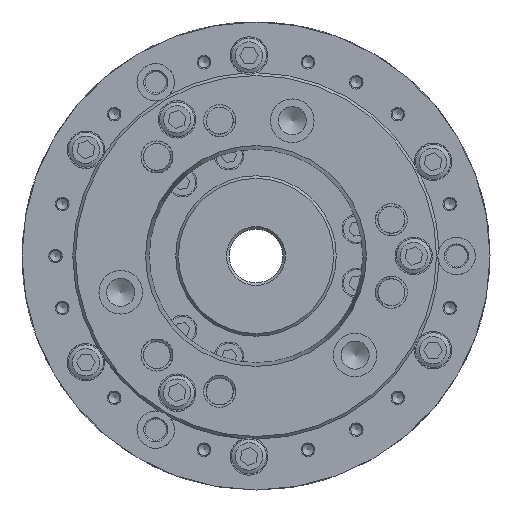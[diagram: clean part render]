
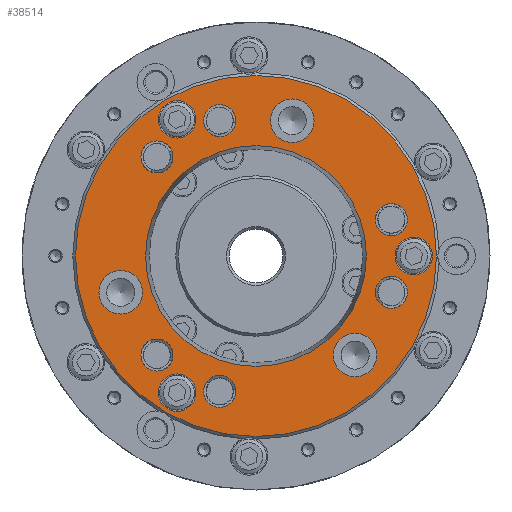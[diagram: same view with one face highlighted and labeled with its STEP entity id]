
A CAD part, left-side view. The second image highlights one B-rep face of the part: STEP entity #38514.
In plain terms, the highlighted planar face has unit normal (-1, 0, 0).
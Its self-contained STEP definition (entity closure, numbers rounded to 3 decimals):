
#229 = AXIS2_PLACEMENT_3D ( 'NONE', #27222, #41992, #6836 ) ;
#991 = FACE_OUTER_BOUND ( 'NONE', #65068, .T. ) ;
#1506 = EDGE_LOOP ( 'NONE', ( #30016 ) ) ;
#2445 = EDGE_LOOP ( 'NONE', ( #40255 ) ) ;
#3077 = ORIENTED_EDGE ( 'NONE', *, *, #18880, .F. ) ;
#3381 = DIRECTION ( 'NONE',  ( -1., 0., 0. ) ) ;
#3887 = EDGE_CURVE ( 'NONE', #35344, #35344, #50914, .T. ) ;
#4796 = AXIS2_PLACEMENT_3D ( 'NONE', #63656, #32458, #7160 ) ;
#4862 = DIRECTION ( 'NONE',  ( -1., 0., 0. ) ) ;
#4933 = DIRECTION ( 'NONE',  ( 0., 0., -1. ) ) ;
#4960 = FACE_BOUND ( 'NONE', #45028, .T. ) ;
#5170 = AXIS2_PLACEMENT_3D ( 'NONE', #35762, #5540, #56861 ) ;
#5432 = CARTESIAN_POINT ( 'NONE',  ( -95., 13.56, -50.605 ) ) ;
#5540 = DIRECTION ( 'NONE',  ( 1., 0., 0. ) ) ;
#6836 = DIRECTION ( 'NONE',  ( 0., 0., 1. ) ) ;
#7020 = CARTESIAN_POINT ( 'NONE',  ( -95., 50.605, -13.56 ) ) ;
#7073 = EDGE_LOOP ( 'NONE', ( #3077 ) ) ;
#7160 = DIRECTION ( 'NONE',  ( 0., 0.866, 0.5 ) ) ;
#7812 = DIRECTION ( 'NONE',  ( 0., 0., 1. ) ) ;
#8006 = AXIS2_PLACEMENT_3D ( 'NONE', #59128, #12292, #7812 ) ;
#8359 = CARTESIAN_POINT ( 'NONE',  ( -95., 33.75, -58.457 ) ) ;
#9325 = AXIS2_PLACEMENT_3D ( 'NONE', #7020, #22449, #16859 ) ;
#10213 = CARTESIAN_POINT ( 'NONE',  ( -95., -37.045, -28.905 ) ) ;
#10703 = DIRECTION ( 'NONE',  ( 1., 0., 0. ) ) ;
#11550 = EDGE_CURVE ( 'NONE', #58234, #58234, #36991, .T. ) ;
#11912 = EDGE_CURVE ( 'NONE', #39722, #39722, #49810, .T. ) ;
#12115 = DIRECTION ( 'NONE',  ( 1., 0., 0. ) ) ;
#12292 = DIRECTION ( 'NONE',  ( -1., 0., 0. ) ) ;
#13957 = DIRECTION ( 'NONE',  ( -1., 0., 0. ) ) ;
#15336 = CARTESIAN_POINT ( 'NONE',  ( -95., 18.756, -53.605 ) ) ;
#16164 = ORIENTED_EDGE ( 'NONE', *, *, #51546, .T. ) ;
#16859 = DIRECTION ( 'NONE',  ( 0., 0., 1. ) ) ;
#17418 = CIRCLE ( 'NONE', #23238, 6. ) ;
#17467 = AXIS2_PLACEMENT_3D ( 'NONE', #5432, #41692, #46833 ) ;
#18419 = CIRCLE ( 'NONE', #54478, 7. ) ;
#18853 = CARTESIAN_POINT ( 'NONE',  ( -95., 37.045, -43.045 ) ) ;
#18880 = EDGE_CURVE ( 'NONE', #25358, #25358, #50807, .T. ) ;
#19071 = PLANE ( 'NONE',  #27281 ) ;
#19101 = CIRCLE ( 'NONE', #8006, 6. ) ;
#21044 = DIRECTION ( 'NONE',  ( 0., -0.866, 0.5 ) ) ;
#21394 = EDGE_LOOP ( 'NONE', ( #65920 ) ) ;
#22023 = CARTESIAN_POINT ( 'NONE',  ( -95., 29.5, -44.095 ) ) ;
#22449 = DIRECTION ( 'NONE',  ( -1., 0., 0. ) ) ;
#23044 = CIRCLE ( 'NONE', #30894, 6. ) ;
#23238 = AXIS2_PLACEMENT_3D ( 'NONE', #55740, #60891, #66068 ) ;
#23367 = CARTESIAN_POINT ( 'NONE',  ( -95., -37.045, -37.045 ) ) ;
#24007 = DIRECTION ( 'NONE',  ( 0., 0., 1. ) ) ;
#24169 = CARTESIAN_POINT ( 'NONE',  ( -95., 29.5, 51.095 ) ) ;
#24453 = VERTEX_POINT ( 'NONE', #39232 ) ;
#25003 = FACE_BOUND ( 'NONE', #2445, .T. ) ;
#25158 = CIRCLE ( 'NONE', #58013, 7. ) ;
#25175 = EDGE_CURVE ( 'NONE', #60615, #60615, #25158, .T. ) ;
#25358 = VERTEX_POINT ( 'NONE', #22023 ) ;
#25674 = CARTESIAN_POINT ( 'NONE',  ( -95., -13.56, 50.605 ) ) ;
#27222 = CARTESIAN_POINT ( 'NONE',  ( -95., 29.5, -51.095 ) ) ;
#27265 = CIRCLE ( 'NONE', #27380, 8.14 ) ;
#27281 = AXIS2_PLACEMENT_3D ( 'NONE', #8359, #34322, #24007 ) ;
#27380 = AXIS2_PLACEMENT_3D ( 'NONE', #25674, #4862, #61559 ) ;
#28219 = FACE_BOUND ( 'NONE', #34939, .T. ) ;
#28764 = DIRECTION ( 'NONE',  ( 0., 0., 1. ) ) ;
#29221 = VERTEX_POINT ( 'NONE', #30048 ) ;
#29282 = VERTEX_POINT ( 'NONE', #37917 ) ;
#30016 = ORIENTED_EDGE ( 'NONE', *, *, #44064, .T. ) ;
#30048 = CARTESIAN_POINT ( 'NONE',  ( -95., 0., -67.5 ) ) ;
#30562 = CARTESIAN_POINT ( 'NONE',  ( -95., 50.605, -5.42 ) ) ;
#30584 = FACE_BOUND ( 'NONE', #21394, .T. ) ;
#30894 = AXIS2_PLACEMENT_3D ( 'NONE', #36025, #66371, #4933 ) ;
#31781 = ORIENTED_EDGE ( 'NONE', *, *, #55595, .F. ) ;
#31890 = CARTESIAN_POINT ( 'NONE',  ( -95., -52.938, 3.5 ) ) ;
#32458 = DIRECTION ( 'NONE',  ( 1., 0., 0. ) ) ;
#32686 = EDGE_LOOP ( 'NONE', ( #50461 ) ) ;
#34238 = EDGE_LOOP ( 'NONE', ( #42317 ) ) ;
#34322 = DIRECTION ( 'NONE',  ( -1., 0., 0. ) ) ;
#34326 = CARTESIAN_POINT ( 'NONE',  ( -95., 37.045, 43.045 ) ) ;
#34939 = EDGE_LOOP ( 'NONE', ( #57458 ) ) ;
#35316 = ORIENTED_EDGE ( 'NONE', *, *, #35772, .F. ) ;
#35344 = VERTEX_POINT ( 'NONE', #30562 ) ;
#35762 = CARTESIAN_POINT ( 'NONE',  ( -95., 0., 0. ) ) ;
#35772 = EDGE_CURVE ( 'NONE', #59017, #59017, #17418, .T. ) ;
#36025 = CARTESIAN_POINT ( 'NONE',  ( -95., 37.045, -37.045 ) ) ;
#36744 = EDGE_LOOP ( 'NONE', ( #64956 ) ) ;
#36933 = DIRECTION ( 'NONE',  ( 1., 0., 0. ) ) ;
#36991 = CIRCLE ( 'NONE', #51820, 8.14 ) ;
#37108 = DIRECTION ( 'NONE',  ( 0., 0., -1. ) ) ;
#37204 = EDGE_CURVE ( 'NONE', #60556, #60556, #58059, .T. ) ;
#37917 = CARTESIAN_POINT ( 'NONE',  ( -95., -13.56, 58.745 ) ) ;
#38514 = ADVANCED_FACE ( 'NONE', ( #25003, #28219, #65099, #53900, #991, #52274, #53040, #30584, #52343, #64331, #54660, #4960, #57875, #59488 ), #19071, .T. ) ;
#38572 = ORIENTED_EDGE ( 'NONE', *, *, #44531, .T. ) ;
#38793 = CARTESIAN_POINT ( 'NONE',  ( -95., 18.756, 53.605 ) ) ;
#39232 = CARTESIAN_POINT ( 'NONE',  ( -95., 23.438, 47.595 ) ) ;
#39722 = VERTEX_POINT ( 'NONE', #15336 ) ;
#40255 = ORIENTED_EDGE ( 'NONE', *, *, #40429, .F. ) ;
#40429 = EDGE_CURVE ( 'NONE', #29282, #29282, #27265, .T. ) ;
#41692 = DIRECTION ( 'NONE',  ( -1., 0., 0. ) ) ;
#41992 = DIRECTION ( 'NONE',  ( -1., 0., 0. ) ) ;
#42272 = EDGE_LOOP ( 'NONE', ( #38572 ) ) ;
#42317 = ORIENTED_EDGE ( 'NONE', *, *, #49606, .F. ) ;
#42704 = ORIENTED_EDGE ( 'NONE', *, *, #11912, .F. ) ;
#42786 = CARTESIAN_POINT ( 'NONE',  ( -95., -59., 0. ) ) ;
#44064 = EDGE_CURVE ( 'NONE', #58942, #58942, #46273, .T. ) ;
#44409 = VERTEX_POINT ( 'NONE', #34326 ) ;
#44531 = EDGE_CURVE ( 'NONE', #54959, #54959, #48606, .T. ) ;
#45028 = EDGE_LOOP ( 'NONE', ( #42704 ) ) ;
#45090 = EDGE_LOOP ( 'NONE', ( #16164 ) ) ;
#46273 = CIRCLE ( 'NONE', #4796, 6. ) ;
#46833 = DIRECTION ( 'NONE',  ( 0., 0.866, -0.5 ) ) ;
#47193 = CARTESIAN_POINT ( 'NONE',  ( -95., 0., 0. ) ) ;
#48606 = CIRCLE ( 'NONE', #64495, 41.281 ) ;
#48900 = CARTESIAN_POINT ( 'NONE',  ( -95., 0., -41.282 ) ) ;
#49606 = EDGE_CURVE ( 'NONE', #24453, #24453, #18419, .T. ) ;
#49810 = CIRCLE ( 'NONE', #17467, 6. ) ;
#50461 = ORIENTED_EDGE ( 'NONE', *, *, #3887, .F. ) ;
#50807 = CIRCLE ( 'NONE', #229, 7. ) ;
#50914 = CIRCLE ( 'NONE', #9325, 8.14 ) ;
#51546 = EDGE_CURVE ( 'NONE', #61318, #61318, #23044, .T. ) ;
#51820 = AXIS2_PLACEMENT_3D ( 'NONE', #23367, #13957, #28764 ) ;
#52202 = CARTESIAN_POINT ( 'NONE',  ( -95., -50.605, -13.56 ) ) ;
#52274 = FACE_BOUND ( 'NONE', #36744, .T. ) ;
#52343 = FACE_BOUND ( 'NONE', #34238, .T. ) ;
#53040 = FACE_BOUND ( 'NONE', #57676, .T. ) ;
#53283 = EDGE_LOOP ( 'NONE', ( #31781 ) ) ;
#53424 = CARTESIAN_POINT ( 'NONE',  ( -95., -55.801, 10.56 ) ) ;
#53900 = FACE_BOUND ( 'NONE', #42272, .T. ) ;
#54478 = AXIS2_PLACEMENT_3D ( 'NONE', #24169, #3381, #64799 ) ;
#54660 = FACE_BOUND ( 'NONE', #53283, .T. ) ;
#54959 = VERTEX_POINT ( 'NONE', #48900 ) ;
#55595 = EDGE_CURVE ( 'NONE', #44409, #44409, #19101, .T. ) ;
#55740 = CARTESIAN_POINT ( 'NONE',  ( -95., -50.605, 13.56 ) ) ;
#56861 = DIRECTION ( 'NONE',  ( 0., 0., -1. ) ) ;
#57458 = ORIENTED_EDGE ( 'NONE', *, *, #11550, .F. ) ;
#57676 = EDGE_LOOP ( 'NONE', ( #35316 ) ) ;
#57875 = FACE_BOUND ( 'NONE', #45090, .T. ) ;
#58013 = AXIS2_PLACEMENT_3D ( 'NONE', #42786, #12115, #63459 ) ;
#58059 = CIRCLE ( 'NONE', #63742, 6. ) ;
#58153 = EDGE_CURVE ( 'NONE', #29221, #29221, #66112, .T. ) ;
#58234 = VERTEX_POINT ( 'NONE', #10213 ) ;
#58902 = ORIENTED_EDGE ( 'NONE', *, *, #58153, .F. ) ;
#58942 = VERTEX_POINT ( 'NONE', #38793 ) ;
#59017 = VERTEX_POINT ( 'NONE', #53424 ) ;
#59128 = CARTESIAN_POINT ( 'NONE',  ( -95., 37.045, 37.045 ) ) ;
#59488 = FACE_BOUND ( 'NONE', #7073, .T. ) ;
#60556 = VERTEX_POINT ( 'NONE', #63987 ) ;
#60615 = VERTEX_POINT ( 'NONE', #31890 ) ;
#60891 = DIRECTION ( 'NONE',  ( -1., 0., 0. ) ) ;
#61318 = VERTEX_POINT ( 'NONE', #18853 ) ;
#61559 = DIRECTION ( 'NONE',  ( 0., 0., 1. ) ) ;
#63459 = DIRECTION ( 'NONE',  ( 0., 0.866, 0.5 ) ) ;
#63656 = CARTESIAN_POINT ( 'NONE',  ( -95., 13.56, 50.605 ) ) ;
#63742 = AXIS2_PLACEMENT_3D ( 'NONE', #52202, #36933, #21044 ) ;
#63987 = CARTESIAN_POINT ( 'NONE',  ( -95., -55.801, -10.56 ) ) ;
#64331 = FACE_BOUND ( 'NONE', #1506, .T. ) ;
#64495 = AXIS2_PLACEMENT_3D ( 'NONE', #47193, #10703, #37108 ) ;
#64799 = DIRECTION ( 'NONE',  ( 0., -0.866, -0.5 ) ) ;
#64956 = ORIENTED_EDGE ( 'NONE', *, *, #25175, .T. ) ;
#65068 = EDGE_LOOP ( 'NONE', ( #58902 ) ) ;
#65099 = FACE_BOUND ( 'NONE', #32686, .T. ) ;
#65920 = ORIENTED_EDGE ( 'NONE', *, *, #37204, .T. ) ;
#66068 = DIRECTION ( 'NONE',  ( 0., -0.866, -0.5 ) ) ;
#66112 = CIRCLE ( 'NONE', #5170, 67.5 ) ;
#66371 = DIRECTION ( 'NONE',  ( 1., 0., 0. ) ) ;
